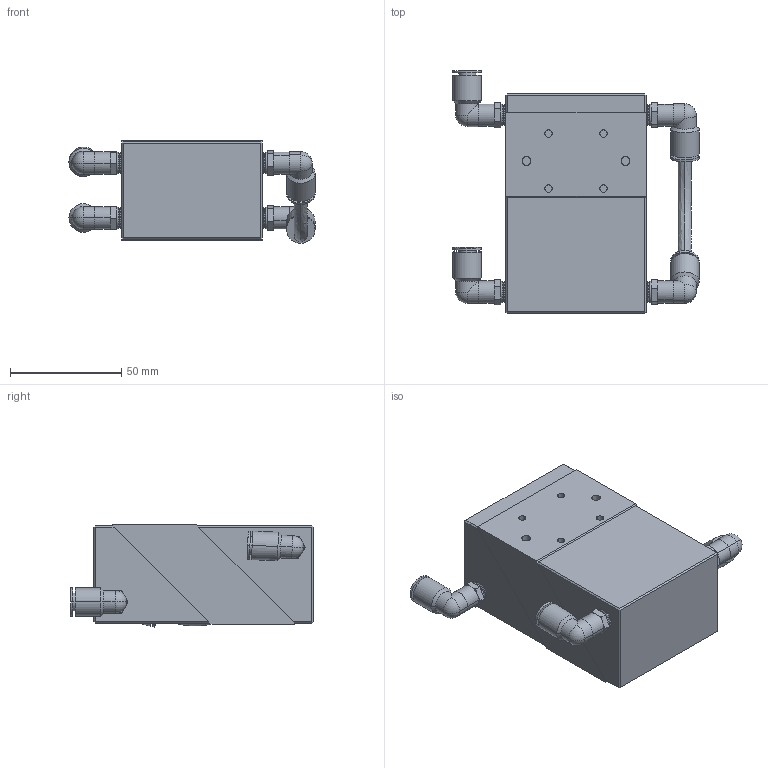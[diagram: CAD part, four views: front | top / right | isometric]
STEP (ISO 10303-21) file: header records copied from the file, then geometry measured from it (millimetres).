
FILE_DESCRIPTION (( 'STEP AP214' ), '1' );
FILE_NAME ('CPU-25-10.6.STEP', '2016-11-21T20:04:40', ( '' ), ( '' ), 'SwSTEP 2.0', 'SolidWorks 2016', '' );
FILE_SCHEMA (( 'AUTOMOTIVE_DESIGN' ));
Length unit declared in the file: inch
Products named in the file (1): CPU-25-10.6
Bounding box: 110.55 x 109.05 x 46.06 mm (x, y, z)
Volume: 268182.3 mm3; surface area: 39191.6 mm2
Topology: 1 solids, 1 shells, 334 faces, 741 edges, 446 vertices
Faces by surface type: plane 138, cylinder 108, cone 50, torus 28, sphere 8, bspline 2
Entity records: 9551 total; most frequent: CARTESIAN_POINT 2104, DIRECTION 1635, ORIENTED_EDGE 1462, EDGE_CURVE 731, AXIS2_PLACEMENT_3D 647, VERTEX_POINT 446, EDGE_LOOP 383, LINE 341
